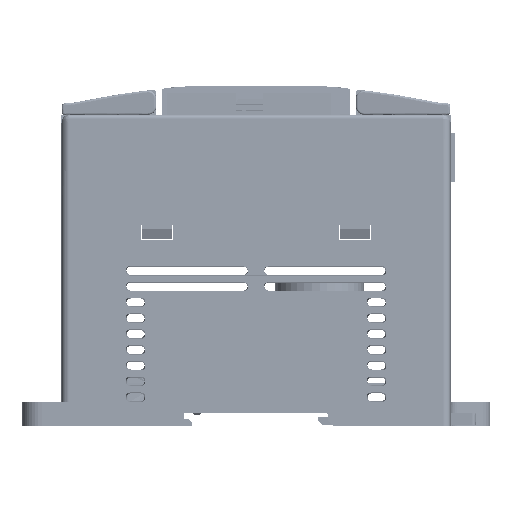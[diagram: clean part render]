
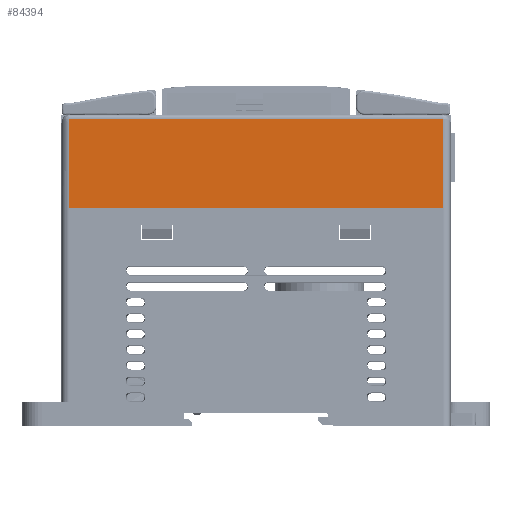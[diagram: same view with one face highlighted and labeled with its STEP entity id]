
A CAD part, left-side view. The second image highlights one B-rep face of the part: STEP entity #84394.
In plain terms, the highlighted planar face has unit normal (-1, 0, 0).
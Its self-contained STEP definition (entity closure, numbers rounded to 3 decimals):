
#66609=DIRECTION('',(0.,-1.,
0.));
#66610=VECTOR('',#66609,94.5);
#66611=CARTESIAN_POINT('',(-3.,94.,
36.851));
#66612=LINE('',#66611,#66610);
#66613=DIRECTION('',(0.,0.,-1.));
#66614=VECTOR('',#66613,22.701);
#66615=CARTESIAN_POINT('',(-3.,-0.5,
36.851));
#66616=LINE('',#66615,#66614);
#66617=DIRECTION('',(0.,1.,0.));
#66618=VECTOR('',#66617,94.5);
#66619=CARTESIAN_POINT('',(-3.,-0.5,14.15));
#66620=LINE('',#66619,#66618);
#66621=DIRECTION('',(0.,0.,1.));
#66622=VECTOR('',#66621,22.701);
#66623=CARTESIAN_POINT('',(-3.,94.,14.15));
#66624=LINE('',#66623,#66622);
#77327=CARTESIAN_POINT('',(-3.,-0.5,14.15));
#77328=CARTESIAN_POINT('',(-3.,94.,14.15));
#77329=VERTEX_POINT('',#77327);
#77330=VERTEX_POINT('',#77328);
#77357=CARTESIAN_POINT('',(-3.,94.,
36.851));
#77358=CARTESIAN_POINT('',(-3.,-0.5,
36.851));
#77359=VERTEX_POINT('',#77357);
#77360=VERTEX_POINT('',#77358);
#84382=CARTESIAN_POINT('',(-3.,0.,-5.15));
#84383=DIRECTION('',(-1.,0.,0.));
#84384=DIRECTION('',(0.,0.,1.));
#84385=AXIS2_PLACEMENT_3D('',#84382,#84383,#84384);
#84386=PLANE('',#84385);
#84387=ORIENTED_EDGE('',*,*,#83890,.T.);
#84389=ORIENTED_EDGE('',*,*,#84388,.T.);
#84390=ORIENTED_EDGE('',*,*,#84337,.T.);
#84391=ORIENTED_EDGE('',*,*,#83827,.T.);
#84392=EDGE_LOOP('',(#84387,#84389,#84390,#84391));
#84393=FACE_OUTER_BOUND('',#84392,.F.);
#84394=ADVANCED_FACE('',(#84393),#84386,.T.);
#83827=EDGE_CURVE('',#77330,#77359,#66624,.T.);
#83890=EDGE_CURVE('',#77359,#77360,#66612,.T.);
#84337=EDGE_CURVE('',#77329,#77330,#66620,.T.);
#84388=EDGE_CURVE('',#77360,#77329,#66616,.T.);
